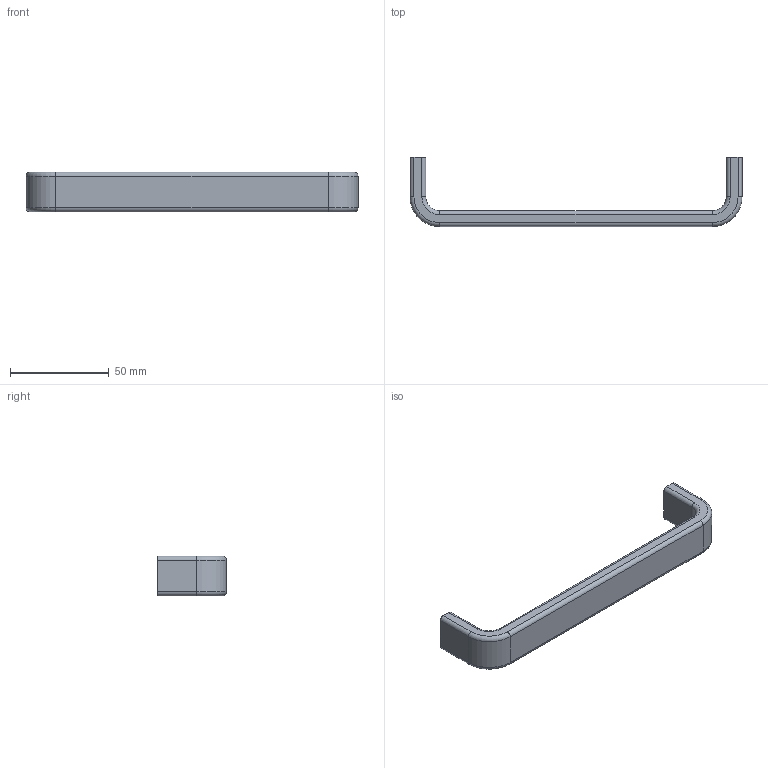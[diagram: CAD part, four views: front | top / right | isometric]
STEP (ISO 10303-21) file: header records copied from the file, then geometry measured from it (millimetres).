
FILE_DESCRIPTION( ( '' ), '1' );
FILE_NAME( 'C:/Documents and Settings/Sachin/Desktop/Sheet 10_1/stp/ 115148.stp', '2013-10-22T11:18:23', ( '' ), ( '' ), ' ', ' ', ' ' );
FILE_SCHEMA( ( 'CONFIG_CONTROL_DESIGN' ) );
Length unit declared in the file: millimetre
Products named in the file (1): 1
Bounding box: 168 x 35 x 20 mm (x, y, z)
Volume: 32886.7 mm3; surface area: 11800.7 mm2
Topology: 1 solids, 1 shells, 40 faces, 92 edges, 56 vertices
Faces by surface type: cylinder 20, plane 12, torus 8
Entity records: 1180 total; most frequent: DIRECTION 222, CARTESIAN_POINT 189, ORIENTED_EDGE 184, EDGE_CURVE 92, AXIS2_PLACEMENT_3D 89, VERTEX_POINT 56, CIRCLE 48, LINE 44
